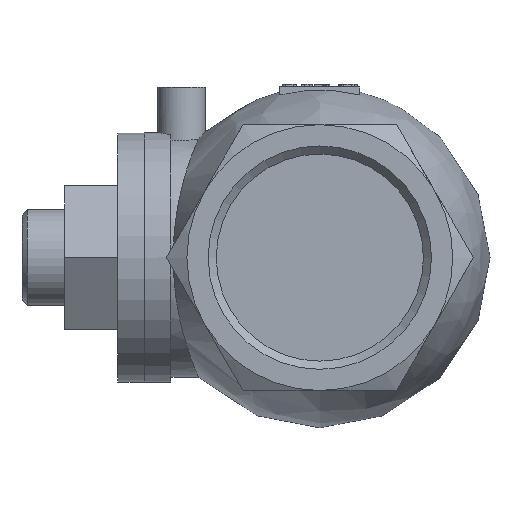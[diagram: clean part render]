
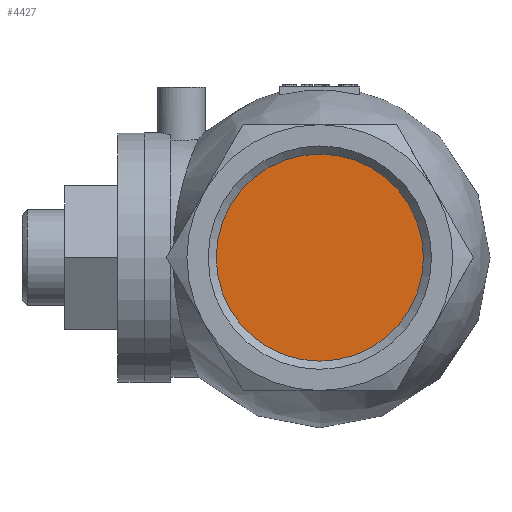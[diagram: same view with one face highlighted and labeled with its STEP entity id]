
A CAD part, left-side view. The second image highlights one B-rep face of the part: STEP entity #4427.
In plain terms, the highlighted planar face has unit normal (-1, 0, 0).
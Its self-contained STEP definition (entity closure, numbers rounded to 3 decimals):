
#403=PLANE('',#4718);
#656=FACE_OUTER_BOUND('',#927,.T.);
#927=EDGE_LOOP('',(#4091,#4092));
#1836=CIRCLE('',#4716,19.476);
#1837=CIRCLE('',#4717,19.476);
#2247=VERTEX_POINT('',#7859);
#2248=VERTEX_POINT('',#7861);
#2867=EDGE_CURVE('',#2248,#2247,#1836,.T.);
#2868=EDGE_CURVE('',#2247,#2248,#1837,.T.);
#4091=ORIENTED_EDGE('',*,*,#2867,.T.);
#4092=ORIENTED_EDGE('',*,*,#2868,.T.);
#4427=ADVANCED_FACE('',(#656),#403,.T.);
#4716=AXIS2_PLACEMENT_3D('',#7862,#5644,#5645);
#4717=AXIS2_PLACEMENT_3D('',#7863,#5646,#5647);
#4718=AXIS2_PLACEMENT_3D('',#7864,#5648,#5649);
#5644=DIRECTION('center_axis',(-1.,0.,0.));
#5645=DIRECTION('ref_axis',(0.,0.,1.));
#5646=DIRECTION('center_axis',(-1.,0.,0.));
#5647=DIRECTION('ref_axis',(0.,0.,1.));
#5648=DIRECTION('center_axis',(-1.,0.,0.));
#5649=DIRECTION('ref_axis',(0.,0.,1.));
#7859=CARTESIAN_POINT('',(-23.,0.,-19.476));
#7861=CARTESIAN_POINT('',(-23.,0.,19.476));
#7862=CARTESIAN_POINT('Origin',(-23.,0.,0.));
#7863=CARTESIAN_POINT('Origin',(-23.,0.,0.));
#7864=CARTESIAN_POINT('Origin',(-23.,0.,0.));
